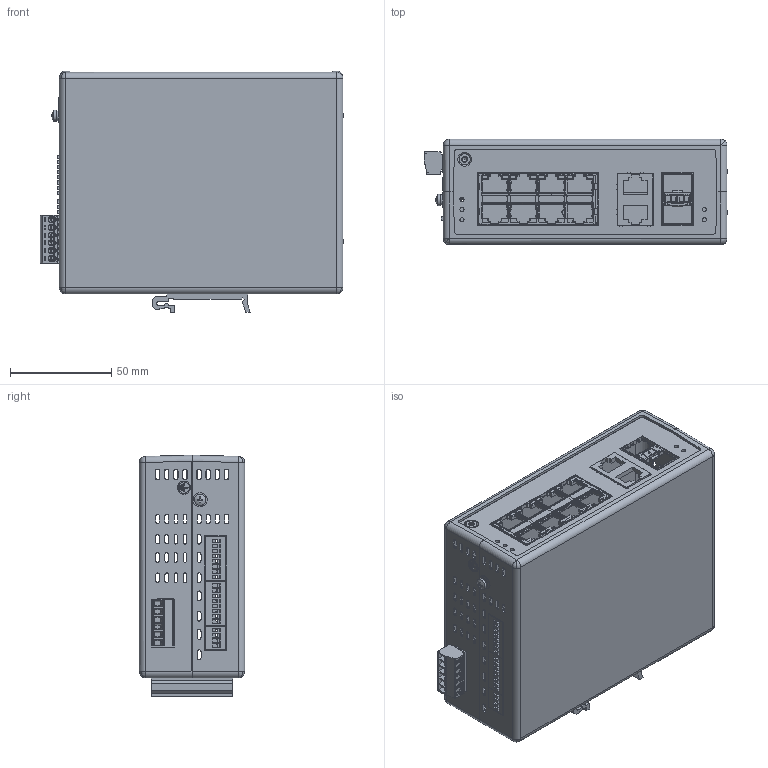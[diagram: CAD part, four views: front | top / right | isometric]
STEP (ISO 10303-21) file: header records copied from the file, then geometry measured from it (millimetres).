
FILE_DESCRIPTION(('TFLEX Exchange Step'),'2;1');
FILE_NAME('STK-EX-U-01-A10R2008.stp', '2025-01-30T12:11:29+03:00',('Yuriy Romanov'),('Unknown organisation'),'TFLEX Exchange 2023.2','T-FLEX CAD','Unknown authorisation');
FILE_SCHEMA( ('AUTOMOTIVE_DESIGN { 1 0 10303 214 1 1 1 1 }') );
Length unit declared in the file: millimetre
Products named in the file (1): STK-EX-U-01-A10R2008
Bounding box: 150 x 52 x 119.3 mm (x, y, z)
Volume: 70615.7 mm3; surface area: 122260 mm2
Topology: 51 solids, 51 shells, 3673 faces, 10435 edges, 6796 vertices
Faces by surface type: plane 2340, cylinder 778, cone 246, extrusion 122, bspline 107, sphere 40, torus 40
Full cylindrical faces by diameter (mm): 2 x5, 2.5 x4, 2.75 x6, 2.8 x6, 2.95 x12, 3 x6, 3.4 x1, 3.5 x4, 4 x1, 4.5 x1, 5.5 x8, 5.6 x1, 7 x1
Entity records: 134459 total; most frequent: CARTESIAN_POINT 38587, ORIENTED_EDGE 20762, DIRECTION 18533, EDGE_CURVE 10381, VECTOR 7503, LINE 7381, VERTEX_POINT 6796, AXIS2_PLACEMENT_3D 5515
